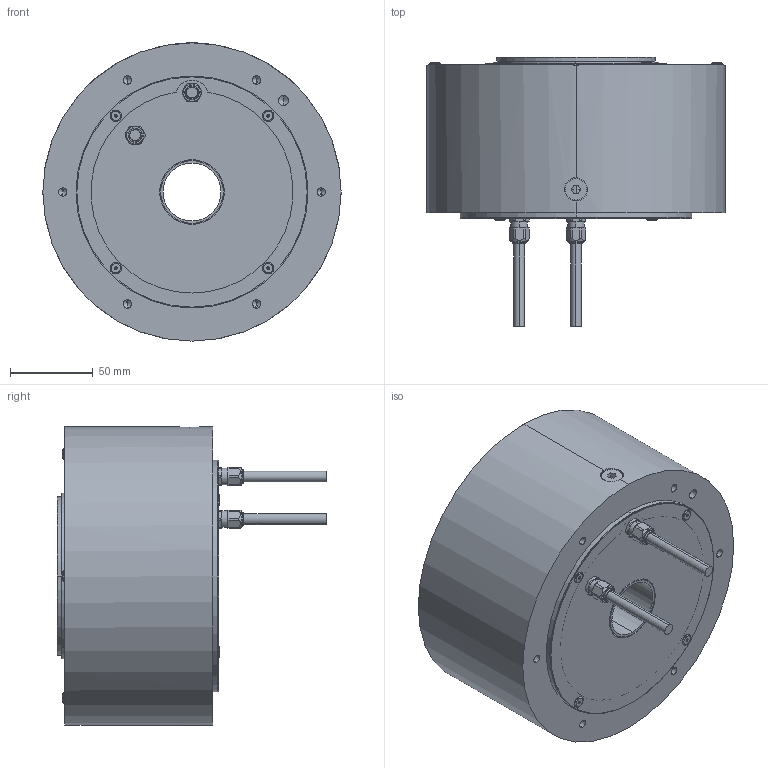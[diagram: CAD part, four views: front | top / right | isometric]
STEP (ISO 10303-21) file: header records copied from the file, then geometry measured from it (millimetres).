
FILE_DESCRIPTION (( 'STEP AP214' ), '1' );
FILE_NAME ('ND180-95-LSP(ABS).step', '2025-03-21T05:59:17', ( '' ), ( '' ), 'SwSTEP 2.0', 'SolidWorks 2024', '' );
FILE_SCHEMA (( 'AUTOMOTIVE_DESIGN' ));
Length unit declared in the file: millimetre
Products named in the file (1): ND180-95-LSP(ABS)
Bounding box: 180 x 162.6 x 180 mm (x, y, z)
Surface area: 237431.6 mm2 (no closed solid volume)
Topology: 0 solids, 19 shells, 619 faces, 1540 edges, 954 vertices
Faces by surface type: cylinder 358, cone 130, plane 91, sphere 20, torus 20
Entity records: 19505 total; most frequent: CARTESIAN_POINT 4736, DIRECTION 3170, ORIENTED_EDGE 2942, EDGE_CURVE 1472, AXIS2_PLACEMENT_3D 1319, VERTEX_POINT 954, EDGE_LOOP 719, CIRCLE 699
